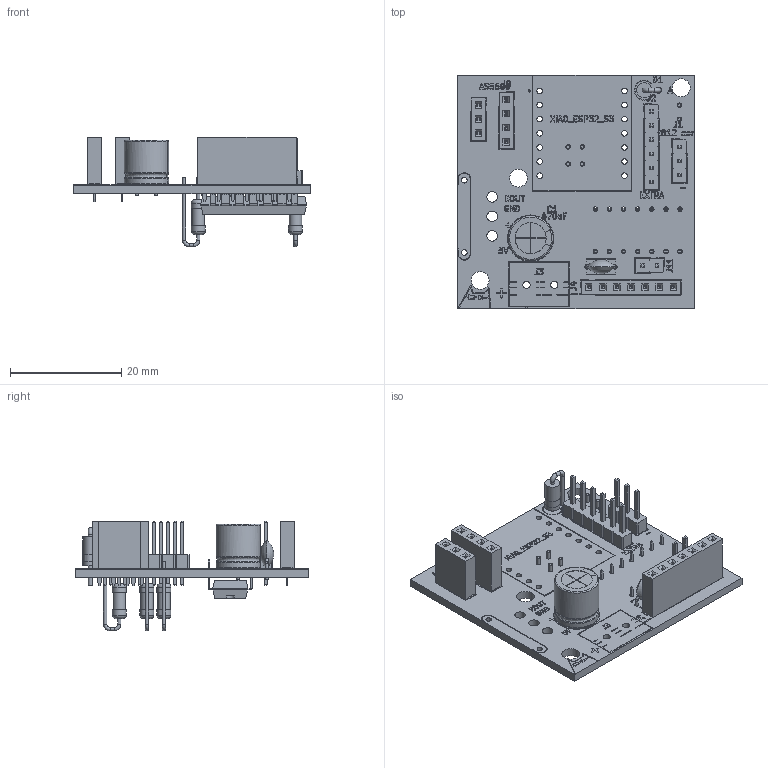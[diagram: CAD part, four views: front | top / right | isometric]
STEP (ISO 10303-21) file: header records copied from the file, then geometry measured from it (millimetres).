
FILE_DESCRIPTION(('KiCad electronic assembly'),'2;1');
FILE_NAME('breakout_jackpad.step','2026-10-13T15:37:13',('Pcbnew'),( 'Kicad'),'Open CASCADE STEP processor 7.9','KiCad to STEP converter' ,'Unknown');
FILE_SCHEMA(('AUTOMOTIVE_DESIGN { 1 0 10303 214 1 1 1 1 }'));
Length unit declared in the file: millimetre
Products named in the file (26): breakout_jackpad 1; PinHeader_1x06_P2.54mm_Vertical; PinHeader_1x06_P254mm_Vertical; PinSocket_1x04_P2.54mm_Vertical; CP_Radial_D8.0mm_P3.50mm; CP_Radial_D80mm_P350mm; D_DO-41_SOD81_P2.54mm_Vertical_AnodeUp; PinSocket_1x03_P2.54mm_Vertical; PinHeader_1x03_P2.54mm_Vertical; PinHeader_1x03_P254mm_Vertical; PinSocket_1x07_P2.54mm_Vertical; PinHeader_1x02_P2.54mm_Vertical; PinHeader_1x02_P254mm_Vertical; C_Disc_D5.0mm_W2.5mm_P5.00mm; C_Disc_D50mm_W25mm_P500mm; R_Axial_DIN0207_L6.3mm_D2.5mm_P2.54mm_Vertical; R_Axial_DIN0207_L63mm_D25mm_P254mm_Vertical; DIP-14_W7.62mm; breakout_jackpad_silkscreen; breakout_jackpad_PCB
Assembly tree (27 placements, depth 3):
  breakout_jackpad 1
    PinHeader_1x06_P2.54mm_Vertical
      PinHeader_1x06_P254mm_Vertical
    PinSocket_1x04_P2.54mm_Vertical
      PinSocket_1x04_P2.54mm_Vertical
    CP_Radial_D8.0mm_P3.50mm
      CP_Radial_D80mm_P350mm
    D_DO-41_SOD81_P2.54mm_Vertical_AnodeUp
      D_DO-41_SOD81_P2.54mm_Vertical_AnodeUp
    PinSocket_1x03_P2.54mm_Vertical
      PinSocket_1x03_P2.54mm_Vertical
    PinHeader_1x03_P2.54mm_Vertical
      PinHeader_1x03_P254mm_Vertical
    PinSocket_1x07_P2.54mm_Vertical
      PinSocket_1x07_P2.54mm_Vertical
    PinHeader_1x02_P2.54mm_Vertical
      PinHeader_1x02_P254mm_Vertical
    C_Disc_D5.0mm_W2.5mm_P5.00mm
      C_Disc_D50mm_W25mm_P500mm
    R_Axial_DIN0207_L6.3mm_D2.5mm_P2.54mm_Vertical  x3
      R_Axial_DIN0207_L63mm_D25mm_P254mm_Vertical
    DIP-14_W7.62mm
      DIP-14_W7.62mm
    breakout_jackpad_silkscreen
    breakout_jackpad_silkscreen
    breakout_jackpad_PCB
Bounding box: 42.5 x 41.92 x 19.72 mm (x, y, z)
Volume: 4446.1 mm3; surface area: 7334.5 mm2
Topology: 14 solids, 130 shells, 1246 faces, 4789 edges, 3755 vertices
Faces by surface type: plane 1035, cylinder 151, bspline 34, torus 16, revolution 8, sphere 2
Full cylindrical faces by diameter (mm): 0.5 x6, 0.6 x12, 0.8 x28, 1 x41, 1.1 x2, 1.3 x2, 1.9 x3, 2.25 x3, 2.5 x6, 2.7 x2, 2.72 x1, 3.2 x3
Entity records: 61720 total; most frequent: CARTESIAN_POINT 11221, DIRECTION 7938, ORIENTED_EDGE 7535, EDGE_CURVE 4733, LINE 3820, VECTOR 3820, VERTEX_POINT 3723, AXIS2_PLACEMENT_3D 2055
